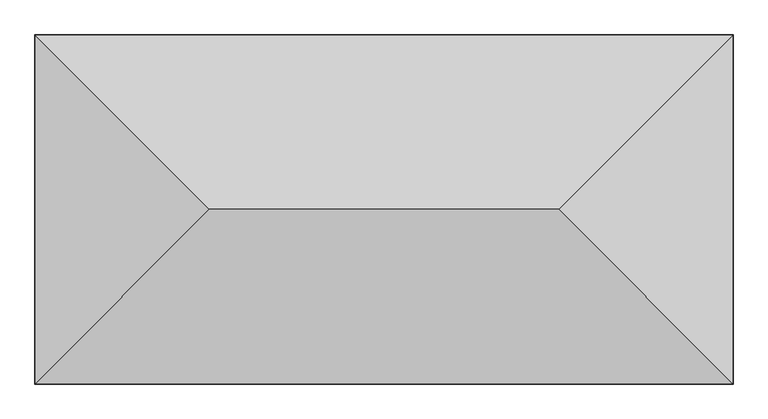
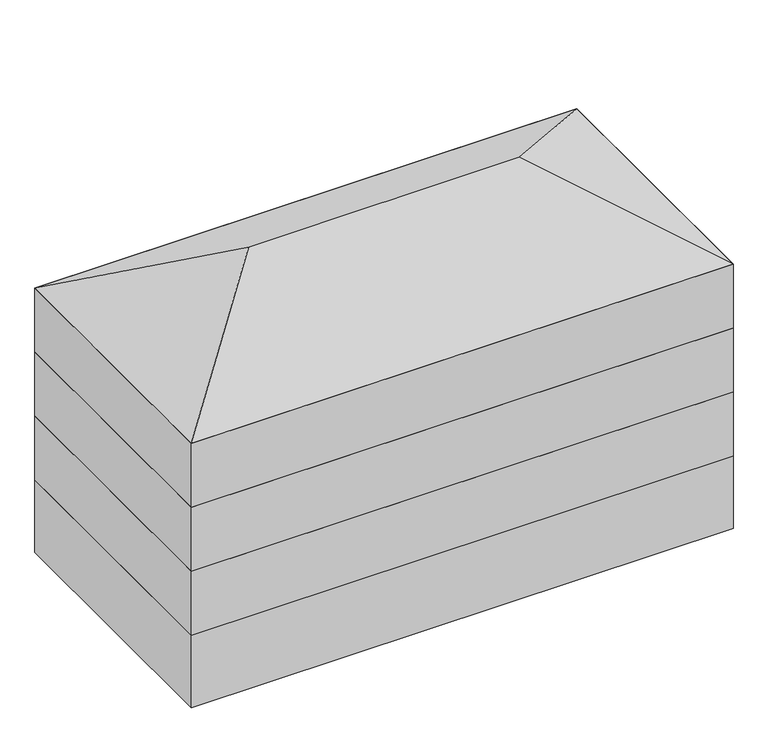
"""IFC4 building model written with IfcOpenShell, lengths in millimetres: geographic element geometry, Окружающая застройка : 3 кж."""

from ifc_helpers import new_model, si_unit, frame, origin, origin_with_axes, place, context, project, spatial, polyline, outline, extrude, faceted_brep, source, transform, mapped, element, save


def geographic_element_9d3f6571(model_context):
    return source(origin(), model_context, "Body", "SolidModel", [
        extrude(outline(polyline([(24000.0, 0.0), (24000.0, -12000.0), (0.0, -12000.0), (0.0, 0.0), (24000.0, 0.0)])), origin_with_axes(), (0.0, 0.0, 1.0), 3000.0),
        extrude(outline(polyline([(24000.0, -12000.0), (0.0, -12000.0), (0.0, 0.0), (24000.0, 0.0), (24000.0, -12000.0)])), frame((0.0, 0.0, -3390.8), z_axis=(0.0, 0.0, 1.0), x_axis=(1.0, 0.0, 0.0)), (0.0, 0.0, 1.0), 3390.8),
        faceted_brep([(24000.0, 0.0, 9000.0), (24000.0, -12000.0, 9000.0), (0.0, -12000.0, 9000.0), (0.0, 0.0, 9000.0), (18000.0, -6000.0, 12464.1016151), (6000.0, -6000.0, 12464.1016151)], [[[0, 1, 2, 3]], [[1, 4, 5, 2]], [[3, 5, 4, 0]], [[2, 5, 3]], [[0, 4, 1]]]),
        extrude(outline(polyline([(24000.0, 0.0), (24000.0, -12000.0), (0.0, -12000.0), (0.0, 0.0), (24000.0, 0.0)])), frame((0.0, 0.0, 3000.0), z_axis=(0.0, 0.0, 1.0), x_axis=(1.0, 0.0, 0.0)), (0.0, 0.0, 1.0), 3000.0),
        extrude(outline(polyline([(24000.0, 0.0), (24000.0, -12000.0), (0.0, -12000.0), (0.0, 0.0), (24000.0, 0.0)])), frame((0.0, 0.0, 6000.0), z_axis=(0.0, 0.0, 1.0), x_axis=(1.0, 0.0, 0.0)), (0.0, 0.0, 1.0), 3000.0),
    ])


if __name__ == "__main__":
    model = new_model("IFC4")
    model_context = context("Model", 3, world=origin())
    ifc_project = project(units=[si_unit("LENGTHUNIT", "METRE", prefix="MILLI")], contexts=[model_context])
    site = spatial("IfcSite", under=ifc_project)
    building = spatial("IfcBuilding", under=site)
    placement = place(None, origin())
    geographic_element_shape = geographic_element_9d3f6571(model_context)
    element("IfcGeographicElement", 1, ObjectType="Окружающая застройка : 3 кж", at=placement, inside=building, context=model_context, shape_type="MappedRepresentation", body=[
        mapped(geographic_element_shape, transform((0.0, 0.0, 0.0), x_axis=(1.0, 0.0, 0.0), y_axis=(0.0, 1.0, 0.0), z_axis=(0.0, 0.0, 1.0))),
    ])
    save(model, "model.ifc")
